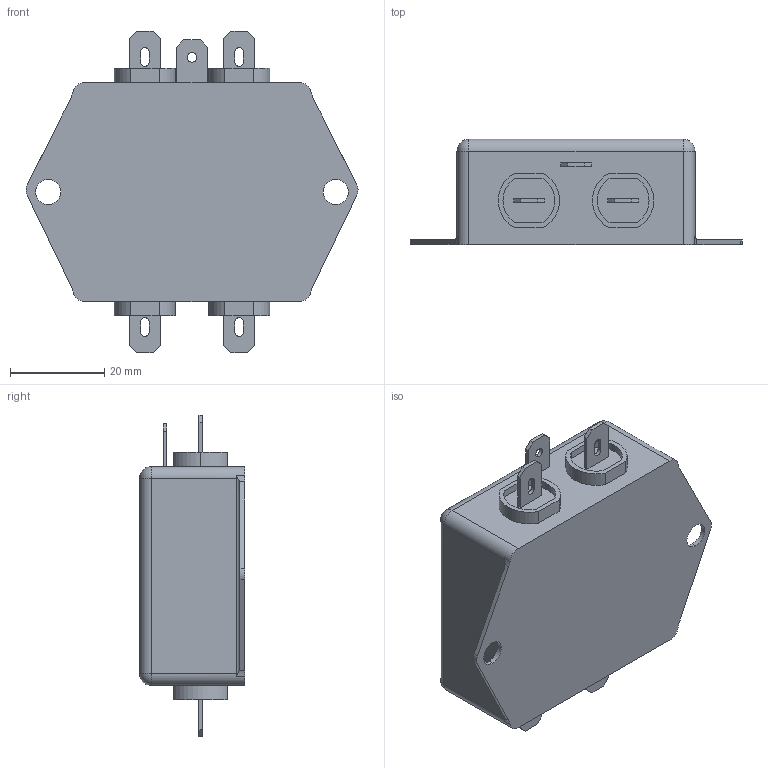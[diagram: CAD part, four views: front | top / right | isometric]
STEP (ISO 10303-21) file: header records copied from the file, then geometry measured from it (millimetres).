
FILE_DESCRIPTION (( 'STEP AP214' ), '1' );
FILE_NAME ('NF-4-1ph-GSC_.STEP', '2025-08-20T08:40:05', ( '' ), ( '' ), 'SwSTEP 2.0', 'SolidWorks 2025', '' );
FILE_SCHEMA (( 'AUTOMOTIVE_DESIGN' ));
Length unit declared in the file: millimetre
Products named in the file (1): NF-4-1ph-GSC_
Bounding box: 70.42 x 22.3 x 68.3 mm (x, y, z)
Volume: 53546.5 mm3; surface area: 10825.7 mm2
Topology: 1 solids, 1 shells, 145 faces, 378 edges, 244 vertices
Faces by surface type: plane 79, cylinder 58, torus 4, sphere 4
Entity records: 4535 total; most frequent: CARTESIAN_POINT 860, DIRECTION 770, ORIENTED_EDGE 748, EDGE_CURVE 374, AXIS2_PLACEMENT_3D 262, VECTOR 246, LINE 246, VERTEX_POINT 244
